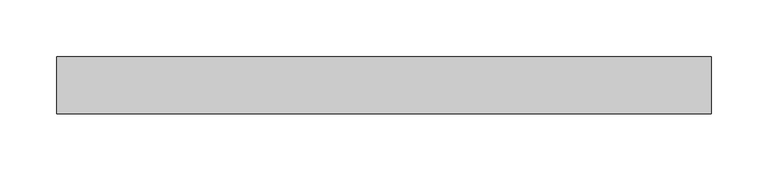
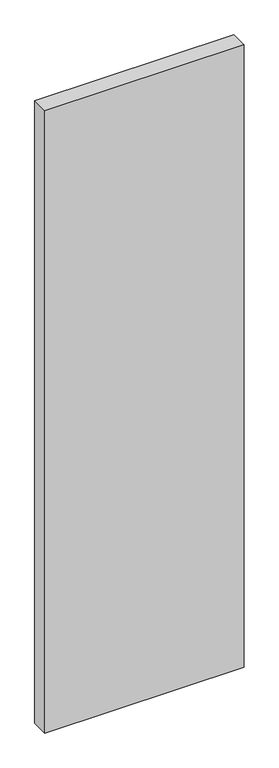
"""IFC4 building model written with IfcOpenShell, lengths in millimetres: plate geometry, Системная панель : Стекло(50мм)."""

from ifc_helpers import new_model, si_unit, origin, origin_with_axes, place, context, project, spatial, polyline, outline, extrude, source, transform, mapped, element, save


def plate_83b13906(model_context):
    return source(origin(), model_context, "Body", "SweptSolid", [
        extrude(outline(polyline([(288.0564008, -25.0), (-288.0564008, -25.0), (-288.0564008, 25.0), (288.0564008, 25.0), (288.0564008, -25.0)])), origin_with_axes(), (0.0, 0.0, 1.0), 1900.0),
    ])


if __name__ == "__main__":
    model = new_model("IFC4")
    model_context = context("Model", 3, world=origin())
    ifc_project = project(units=[si_unit("LENGTHUNIT", "METRE", prefix="MILLI")], contexts=[model_context])
    site = spatial("IfcSite", under=ifc_project)
    building = spatial("IfcBuilding", under=site)
    placement = place(None, origin())
    plate_shape = plate_83b13906(model_context)
    element("IfcPlate", 1, ObjectType="Системная панель : Стекло(50мм)", at=placement, inside=building, context=model_context, shape_type="MappedRepresentation", body=[
        mapped(plate_shape, transform((0.0, 0.0, 0.0), x_axis=(1.0, 0.0, 0.0), y_axis=(0.0, 1.0, 0.0), z_axis=(0.0, 0.0, 1.0))),
    ])
    save(model, "model.ifc")
